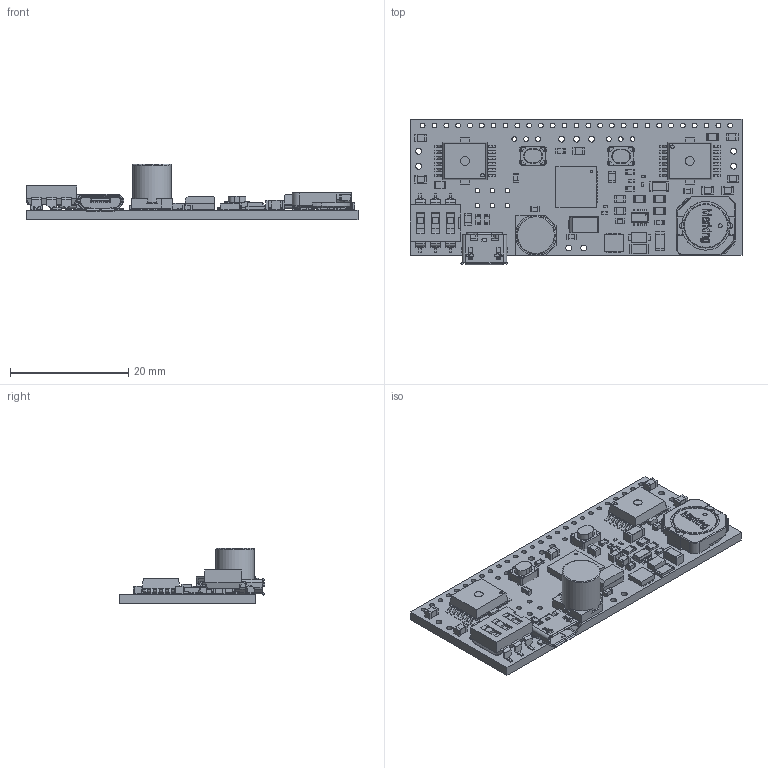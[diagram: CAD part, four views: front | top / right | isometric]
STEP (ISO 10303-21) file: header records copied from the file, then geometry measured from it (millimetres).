
FILE_DESCRIPTION(('KiCad electronic assembly'),'2;1');
FILE_NAME('Board.step','2026-02-18T10:57:24',('Pcbnew'),('Kicad'), 'Open CASCADE STEP processor 7.7','KiCad to STEP converter','Unknown' );
FILE_SCHEMA(('AUTOMOTIVE_DESIGN { 1 0 10303 214 1 1 1 1 }'));
Length unit declared in the file: millimetre
Products named in the file (42): Board 1; TL3365AF180QG--3DModel-STEP-613395; TL3365AF180QG; C_0603_1608Metric; R_0805_2012Metric; C_0805_2012Metric; C_1206_3216Metric; R_0603_1608Metric; LED_0201_0603Metric; TLE9201SG - Copy; IFX9201SGAUMA1; SSA34-E3_61T; ASSEMBLY; DS04-254-2-03BK-SMT; HPZR-C10X; 7447713047; 7447713680; R_0402_1005Metric; QFN-44-1EP_7x7mm_P0.5mm_EP5.2x5.2mm; QFN_44_1EP_7x7mm_P05mm_EP52x52mm; R_1206_3216Metric; micro USB; SY8303AIC; 865080545012; TLE9201SG; RQ3E075ATTB; Board PCB
Assembly tree (69 placements, depth 3):
  Board 1
    TL3365AF180QG--3DModel-STEP-613395  x2
      TL3365AF180QG
    C_0603_1608Metric  x5
      C_0603_1608Metric
    R_0805_2012Metric  x5
      R_0805_2012Metric
    C_0805_2012Metric  x11
      C_0805_2012Metric
    C_1206_3216Metric  x2
      C_1206_3216Metric
    R_0603_1608Metric  x6
      R_0603_1608Metric
    LED_0201_0603Metric  x3
      LED_0201_0603Metric
    TLE9201SG - Copy
      IFX9201SGAUMA1
    SSA34-E3_61T
      ASSEMBLY
    DS04-254-2-03BK-SMT
      DS04-254-2-03BK-SMT
    HPZR-C10X
      ASSEMBLY
    7447713047
      7447713680
    R_0402_1005Metric  x2
      R_0402_1005Metric
    QFN-44-1EP_7x7mm_P0.5mm_EP5.2x5.2mm
      QFN_44_1EP_7x7mm_P05mm_EP52x52mm
    R_1206_3216Metric
      R_1206_3216Metric
    micro USB
      micro USB
    SY8303AIC
      ASSEMBLY
    865080545012
      ASSEMBLY
    TLE9201SG
      IFX9201SGAUMA1
    RQ3E075ATTB
      ASSEMBLY
    Board PCB
Bounding box: 56.14 x 24.64 x 9.35 mm (x, y, z)
Volume: 3117.4 mm3; surface area: 5768.7 mm2
Topology: 120 solids, 120 shells, 4220 faces, 10759 edges, 6778 vertices
Faces by surface type: plane 2390, cylinder 1385, torus 251, bspline 155, sphere 24, cone 15
Full cylindrical faces by diameter (mm): 0.2 x1, 0.4 x1, 0.8 x39, 1 x9, 6.5 x1
Entity records: 231937 total; most frequent: CARTESIAN_POINT 58566, DIRECTION 31505, LINE 19878, VECTOR 19878, ORIENTED_EDGE 16658, PCURVE 16658, DEFINITIONAL_REPRESENTATION 16658, EDGE_CURVE 8329
